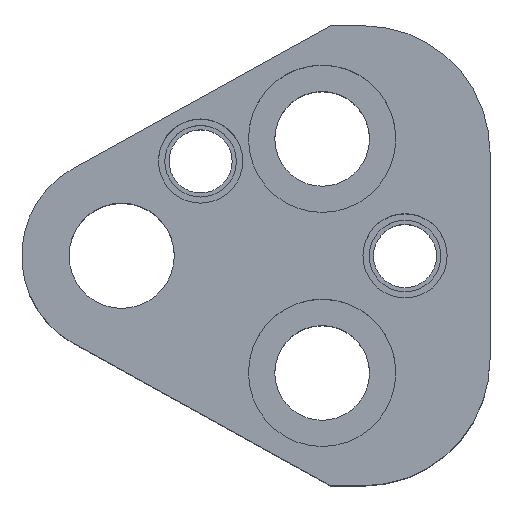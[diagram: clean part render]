
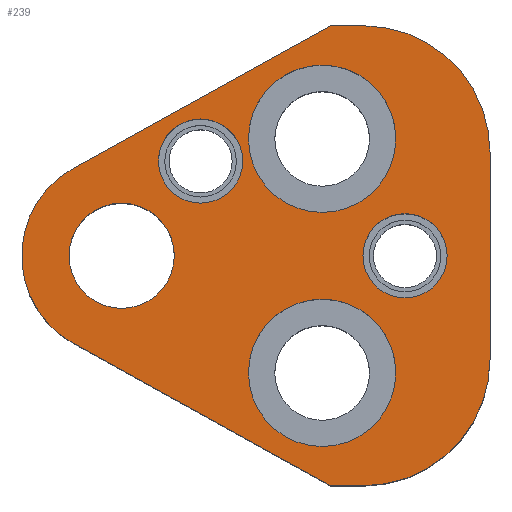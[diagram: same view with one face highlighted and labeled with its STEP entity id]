
A CAD part, top view. The second image highlights one B-rep face of the part: STEP entity #239.
In plain terms, the highlighted planar face has unit normal (0, 0, 1).
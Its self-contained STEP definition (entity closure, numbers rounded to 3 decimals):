
#113=FACE_BOUND('',#339,.T.);
#114=FACE_BOUND('',#340,.T.);
#115=FACE_BOUND('',#341,.T.);
#116=FACE_BOUND('',#342,.T.);
#117=FACE_BOUND('',#343,.T.);
#118=FACE_BOUND('',#344,.T.);
#152=CIRCLE('',#816,12.);
#154=CIRCLE('',#820,12.);
#157=CIRCLE('',#826,9.5);
#182=CIRCLE('',#865,4.);
#184=CIRCLE('',#868,4.);
#186=CIRCLE('',#872,4.);
#188=CIRCLE('',#875,4.);
#194=CIRCLE('',#887,7.);
#195=CIRCLE('',#888,7.);
#196=CIRCLE('',#889,7.);
#197=CIRCLE('',#890,7.);
#198=CIRCLE('',#891,5.);
#199=CIRCLE('',#892,5.);
#239=ADVANCED_FACE('',(#113,#114,#115,#116,#117,#118),#261,.T.);
#261=PLANE('',#893);
#339=EDGE_LOOP('',(#497,#498,#499,#500,#501,#502,#503,#504));
#340=EDGE_LOOP('',(#505,#506));
#341=EDGE_LOOP('',(#507,#508));
#342=EDGE_LOOP('',(#509,#510));
#343=EDGE_LOOP('',(#511,#512));
#344=EDGE_LOOP('',(#513,#514));
#497=ORIENTED_EDGE('',*,*,#626,.T.);
#498=ORIENTED_EDGE('',*,*,#630,.T.);
#499=ORIENTED_EDGE('',*,*,#633,.T.);
#500=ORIENTED_EDGE('',*,*,#636,.T.);
#501=ORIENTED_EDGE('',*,*,#639,.T.);
#502=ORIENTED_EDGE('',*,*,#642,.T.);
#503=ORIENTED_EDGE('',*,*,#645,.T.);
#504=ORIENTED_EDGE('',*,*,#648,.T.);
#505=ORIENTED_EDGE('',*,*,#703,.F.);
#506=ORIENTED_EDGE('',*,*,#704,.F.);
#507=ORIENTED_EDGE('',*,*,#705,.F.);
#508=ORIENTED_EDGE('',*,*,#706,.F.);
#509=ORIENTED_EDGE('',*,*,#693,.F.);
#510=ORIENTED_EDGE('',*,*,#689,.F.);
#511=ORIENTED_EDGE('',*,*,#687,.F.);
#512=ORIENTED_EDGE('',*,*,#683,.F.);
#513=ORIENTED_EDGE('',*,*,#707,.T.);
#514=ORIENTED_EDGE('',*,*,#708,.T.);
#560=VERTEX_POINT('',#1160);
#561=VERTEX_POINT('',#1162);
#564=VERTEX_POINT('',#1169);
#566=VERTEX_POINT('',#1175);
#568=VERTEX_POINT('',#1181);
#570=VERTEX_POINT('',#1187);
#572=VERTEX_POINT('',#1193);
#574=VERTEX_POINT('',#1199);
#599=VERTEX_POINT('',#1278);
#600=VERTEX_POINT('',#1279);
#603=VERTEX_POINT('',#1291);
#604=VERTEX_POINT('',#1292);
#611=VERTEX_POINT('',#1320);
#612=VERTEX_POINT('',#1321);
#613=VERTEX_POINT('',#1324);
#614=VERTEX_POINT('',#1325);
#615=VERTEX_POINT('',#1328);
#616=VERTEX_POINT('',#1329);
#626=EDGE_CURVE('',#561,#560,#726,.T.);
#630=EDGE_CURVE('',#560,#564,#730,.T.);
#633=EDGE_CURVE('',#564,#566,#152,.T.);
#636=EDGE_CURVE('',#566,#568,#734,.T.);
#639=EDGE_CURVE('',#568,#570,#154,.T.);
#642=EDGE_CURVE('',#570,#572,#738,.T.);
#645=EDGE_CURVE('',#572,#574,#741,.T.);
#648=EDGE_CURVE('',#574,#561,#157,.T.);
#683=EDGE_CURVE('',#599,#600,#182,.T.);
#687=EDGE_CURVE('',#600,#599,#184,.T.);
#689=EDGE_CURVE('',#603,#604,#186,.T.);
#693=EDGE_CURVE('',#604,#603,#188,.T.);
#703=EDGE_CURVE('',#611,#612,#194,.T.);
#704=EDGE_CURVE('',#612,#611,#195,.T.);
#705=EDGE_CURVE('',#613,#614,#196,.T.);
#706=EDGE_CURVE('',#614,#613,#197,.T.);
#707=EDGE_CURVE('',#615,#616,#198,.T.);
#708=EDGE_CURVE('',#616,#615,#199,.T.);
#726=LINE('',#1161,#770);
#730=LINE('',#1170,#774);
#734=LINE('',#1182,#778);
#738=LINE('',#1194,#782);
#741=LINE('',#1200,#785);
#770=VECTOR('',#916,1.);
#774=VECTOR('',#922,1.);
#778=VECTOR('',#934,1.);
#782=VECTOR('',#946,1.);
#785=VECTOR('',#951,1.);
#816=AXIS2_PLACEMENT_3D('',#1176,#927,#928);
#820=AXIS2_PLACEMENT_3D('',#1188,#939,#940);
#826=AXIS2_PLACEMENT_3D('',#1204,#957,#958);
#865=AXIS2_PLACEMENT_3D('',#1277,#1045,#1046);
#868=AXIS2_PLACEMENT_3D('',#1286,#1053,#1054);
#872=AXIS2_PLACEMENT_3D('',#1290,#1061,#1062);
#875=AXIS2_PLACEMENT_3D('',#1299,#1069,#1070);
#887=AXIS2_PLACEMENT_3D('',#1319,#1097,#1098);
#888=AXIS2_PLACEMENT_3D('',#1322,#1099,#1100);
#889=AXIS2_PLACEMENT_3D('',#1323,#1101,#1102);
#890=AXIS2_PLACEMENT_3D('',#1326,#1103,#1104);
#891=AXIS2_PLACEMENT_3D('',#1327,#1105,#1106);
#892=AXIS2_PLACEMENT_3D('',#1330,#1107,#1108);
#893=AXIS2_PLACEMENT_3D('',#1331,#1109,#1110);
#916=DIRECTION('',(0.875,-0.485,0.));
#922=DIRECTION('',(1.,0.,0.));
#927=DIRECTION('',(0.,0.,1.));
#928=DIRECTION('',(-0.707,0.707,0.));
#934=DIRECTION('',(0.,1.,0.));
#939=DIRECTION('',(0.,0.,1.));
#940=DIRECTION('',(-0.707,-0.707,0.));
#946=DIRECTION('',(-1.,0.,0.));
#951=DIRECTION('',(-0.875,-0.485,0.));
#957=DIRECTION('',(0.,0.,1.));
#958=DIRECTION('',(1.,0.,0.));
#1045=DIRECTION('',(0.,0.,1.));
#1046=DIRECTION('',(-1.,0.,0.));
#1053=DIRECTION('',(0.,0.,1.));
#1054=DIRECTION('',(1.,0.,0.));
#1061=DIRECTION('',(0.,0.,1.));
#1062=DIRECTION('',(-1.,0.,0.));
#1069=DIRECTION('',(0.,0.,1.));
#1070=DIRECTION('',(1.,0.,0.));
#1097=DIRECTION('',(0.,0.,1.));
#1098=DIRECTION('',(1.,0.,0.));
#1099=DIRECTION('',(0.,0.,1.));
#1100=DIRECTION('',(-1.,0.,0.));
#1101=DIRECTION('',(0.,0.,1.));
#1102=DIRECTION('',(1.,0.,0.));
#1103=DIRECTION('',(0.,0.,1.));
#1104=DIRECTION('',(-1.,0.,0.));
#1105=DIRECTION('',(0.,0.,-1.));
#1106=DIRECTION('',(-1.,0.,0.));
#1107=DIRECTION('',(0.,0.,-1.));
#1108=DIRECTION('',(1.,0.,0.));
#1109=DIRECTION('',(0.,0.,1.));
#1110=DIRECTION('',(-0.875,0.485,0.));
#1160=CARTESIAN_POINT('',(19.823,-21.85,25.));
#1161=CARTESIAN_POINT('',(19.823,-21.85,25.));
#1162=CARTESIAN_POINT('',(-4.606,-8.309,25.));
#1169=CARTESIAN_POINT('',(23.,-21.85,25.));
#1170=CARTESIAN_POINT('',(19.823,-21.85,25.));
#1175=CARTESIAN_POINT('',(35.,-9.85,25.));
#1176=CARTESIAN_POINT('',(23.,-9.85,25.));
#1181=CARTESIAN_POINT('',(35.,9.85,25.));
#1182=CARTESIAN_POINT('',(35.,9.85,25.));
#1187=CARTESIAN_POINT('',(23.,21.85,25.));
#1188=CARTESIAN_POINT('',(23.,9.85,25.));
#1193=CARTESIAN_POINT('',(19.823,21.85,25.));
#1194=CARTESIAN_POINT('',(19.823,21.85,25.));
#1199=CARTESIAN_POINT('',(-4.606,8.309,25.));
#1200=CARTESIAN_POINT('',(19.823,21.85,25.));
#1204=CARTESIAN_POINT('',(0.,0.,25.));
#1277=CARTESIAN_POINT('',(7.5,9.,25.));
#1278=CARTESIAN_POINT('',(7.5,5.,25.));
#1279=CARTESIAN_POINT('',(7.5,13.,25.));
#1286=CARTESIAN_POINT('',(7.5,9.,25.));
#1290=CARTESIAN_POINT('',(26.925,0.,25.));
#1291=CARTESIAN_POINT('',(26.925,-4.,25.));
#1292=CARTESIAN_POINT('',(26.925,4.,25.));
#1299=CARTESIAN_POINT('',(26.925,0.,25.));
#1319=CARTESIAN_POINT('',(19.05,11.12,25.));
#1320=CARTESIAN_POINT('',(19.05,18.12,25.));
#1321=CARTESIAN_POINT('',(19.05,4.12,25.));
#1322=CARTESIAN_POINT('',(19.05,11.12,25.));
#1323=CARTESIAN_POINT('',(19.05,-11.12,25.));
#1324=CARTESIAN_POINT('',(19.05,-4.12,25.));
#1325=CARTESIAN_POINT('',(19.05,-18.12,25.));
#1326=CARTESIAN_POINT('',(19.05,-11.12,25.));
#1327=CARTESIAN_POINT('',(0.,0.,25.));
#1328=CARTESIAN_POINT('',(0.,5.,25.));
#1329=CARTESIAN_POINT('',(0.,-5.,25.));
#1330=CARTESIAN_POINT('',(0.,0.,25.));
#1331=CARTESIAN_POINT('',(-4.606,-8.309,25.));
